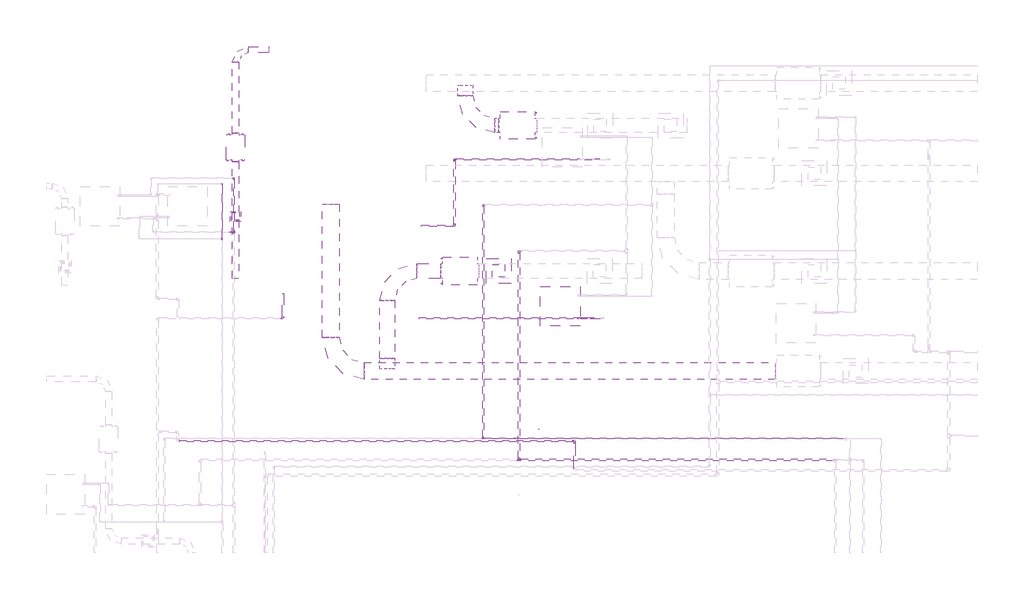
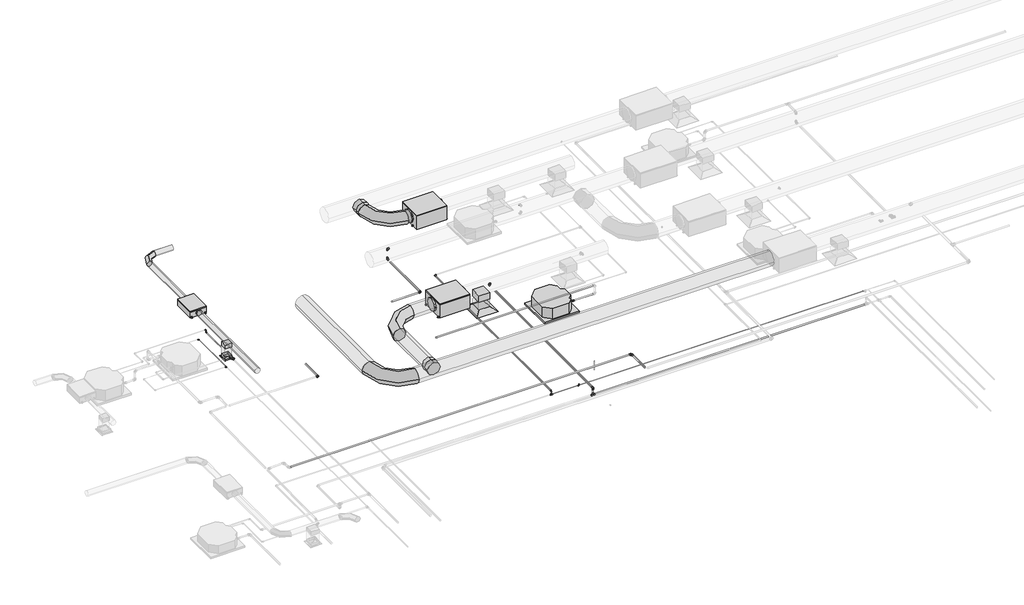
# One storey, part 14 of 21: 24 pipe fittings, 20 pipe segments, 11 duct segments, 9 duct fittings, 4 proxies, 2 air terminals.
"""IFC4 building model written with IfcOpenShell, lengths in millimetres."""

from ifc_helpers import new_model, si_unit, point, frame, frame_2d, origin, place, context, project, spatial, polyline, circle_curve, trimmed, segment, composite_curve, outline, extrude, transform, mapped, element, save
from components import air_terminal_ff221211, sdq3030_c899bc25, mechanical_equipment_53173f38, fh_fh_150_19aaf5c2, fh_fh_355_93b582f7, duct_fitting_7a0800c2, duct_fitting_550a0fe9, duct_fitting_d8e74723, duct_fitting_ed959077, duct_fitting_bc26a891, duct_fitting_2_d_33ab650d, duct_fitting_2_d_8456317d, duct_fitting_2_d_e46ba55a, pipe_fitting_e2d793b1, pipe_fitting_535881cf, pipe_fitting_144f4440, pipe_fitting_aa3f564d, pipe_fitting_a5ff4f7d, pipe_fitting_660e7500, pipe_fitting_65edd11d, pipe_fitting_b9714969, pipe_fitting_b8067b9a, pipe_fitting_8e7af1ed, pipe_fitting_1806753b, pipe_fitting_16c020f5, pipe_fitting_0e110a5f, pipe_fitting_a9265b51, pipe_fitting_09966660, pipe_fitting_648138cd, pipe_fitting_725bd888, pipe_fitting_d1254744

model = new_model("IFC4")

# Units and contexts
model_context = context("Model", 3, world=origin())
ifc_project = project(units=[si_unit("LENGTHUNIT", "METRE", prefix="MILLI")], contexts=[model_context])

# Site, building, storey
site = spatial("IfcSite", under=ifc_project)
building = spatial("IfcBuilding", under=site)
storey = spatial("IfcBuildingStorey", under=building, Name="Nível 1", Elevation=0.0)

# Air terminals
placement = place(None, origin())
air_terminal_shape = air_terminal_ff221211(model_context)
element("IfcAirTerminal", 1, ObjectType="M_Difusor de retorno : 600 x 600 Face 300 x 300 Conexão", at=placement, inside=storey, context=model_context, shape_type="MappedRepresentation", body=[
    mapped(air_terminal_shape, transform((-986.9060918, 4681.9327662, 3000.0), x_axis=(0.0, -1.0, 0.0), y_axis=(1.0, 0.0, 0.0), z_axis=(0.0, 0.0, 1.0))),
])
sdq3030_shape = sdq3030_c899bc25(model_context)
element("IfcAirTerminal", 2, ObjectType="11 - Difusor Quadrado : SDQ3030", at=placement, inside=storey, context=model_context, shape_type="MappedRepresentation", body=[
    mapped(sdq3030_shape, transform((-7285.4952284, 5984.9618694, 3000.0), x_axis=(-1.0, 0.0, 0.0), y_axis=(0.0, -1.0, 0.0), z_axis=(0.0, 0.0, 1.0))),
])

# Proxies
mechanical_equipment_shape = mechanical_equipment_53173f38(model_context)
element("IfcBuildingElementProxy", 3, Name="Midea_VRF_Indoor_4-way Cassette_MI-90(100,112,140)Q4_DHN1-D (2nd DC) : MI2-100Q4DHN1", ObjectType="Midea_VRF_Indoor_4-way Cassette_MI-90(100,112,140)Q4_DHN1-D (2nd DC) : MI2-100Q4DHN1", at=placement, inside=storey, context=model_context, shape_type="MappedRepresentation", body=[
    mapped(mechanical_equipment_shape, transform((487.5410392, 3832.7051078, 3000.0), x_axis=(1.0, 0.0, 0.0), y_axis=(0.0, 1.0, 0.0), z_axis=(0.0, 0.0, 1.0))),
])
fh_fh_150_shape = fh_fh_150_19aaf5c2(model_context)
element("IfcBuildingElementProxy", 4, Name="FH : FH 150", ObjectType="FH : FH 150", at=placement, inside=storey, context=model_context, shape_type="MappedRepresentation", body=[
    mapped(fh_fh_150_shape, transform((-7285.4952284, 7643.6930389, 3400.0), x_axis=(1.0, 0.0, 0.0), y_axis=(0.0, 1.0, 0.0), z_axis=(0.0, 0.0, 1.0))),
])
fh_fh_355_shape = fh_fh_355_93b582f7(model_context)
element("IfcBuildingElementProxy", 5, Name="FH : FH 355", ObjectType="FH : FH 355", at=placement, inside=storey, context=model_context, shape_type="MappedRepresentation", body=[
    mapped(fh_fh_355_shape, transform((-1912.9060918, 4681.9327662, 3400.0), x_axis=(0.0, -1.0, 0.0), y_axis=(1.0, 0.0, 0.0), z_axis=(0.0, 0.0, 1.0))),
])
element("IfcBuildingElementProxy", 6, Name="FH : FH 355", ObjectType="FH : FH 355", at=placement, inside=storey, context=model_context, shape_type="MappedRepresentation", body=[
    mapped(fh_fh_355_shape, transform((-532.9060918, 8168.767415, 3400.0), x_axis=(0.0, 1.0, 0.0), y_axis=(-1.0, 0.0, 0.0), z_axis=(0.0, 0.0, 1.0))),
])

# Duct fittings
duct_fitting_shape = duct_fitting_7a0800c2(model_context)
element("IfcDuctFitting", 7, ObjectType="M_Encaixe de duto redondo : Padrão", at=placement, inside=storey, context=model_context, shape_type="MappedRepresentation", body=[
    mapped(duct_fitting_shape, transform((-1786.9060918, 8984.06713, 3605.0), x_axis=(0.0, -1.0, 0.0), y_axis=(-1.0, 0.0, 0.0), z_axis=(0.0, 0.0, -1.0))),
])
duct_fitting_2_shape = duct_fitting_550a0fe9(model_context)
element("IfcDuctFitting", 8, ObjectType="M_Encaixe de duto retangular : Padrão", at=placement, inside=storey, context=model_context, shape_type="MappedRepresentation", body=[
    mapped(duct_fitting_2_shape, transform((-986.9060918, 4681.9327662, 3427.5), x_axis=(0.0, 0.0, -1.0), y_axis=(-1.0, 0.0, 0.0), z_axis=(0.0, 1.0, 0.0))),
])
duct_fitting_3_shape = duct_fitting_d8e74723(model_context)
element("IfcDuctFitting", 9, ObjectType="M_Encaixe de duto redondo : Padrão", at=placement, inside=storey, context=model_context, shape_type="MappedRepresentation", body=[
    mapped(duct_fitting_3_shape, transform((-3656.9060918, 2482.7850754, 3605.0), x_axis=(0.0, 1.0, 0.0), y_axis=(1.0, 0.0, 0.0), z_axis=(0.0, 0.0, -1.0))),
])
duct_fitting_4_shape = duct_fitting_ed959077(model_context)
element("IfcDuctFitting", 10, ObjectType="M_Transição redonda - Ângulo : 45 Graus", at=placement, inside=storey, context=model_context, shape_type="MappedRepresentation", body=[
    mapped(duct_fitting_4_shape, transform((-7285.4952284, 7301.6930389, 3493.0), x_axis=(0.0, -1.0, 0.0), y_axis=(1.0, 0.0, 0.0), z_axis=(0.0, 0.0, 1.0))),
])
duct_fitting_5_shape = duct_fitting_bc26a891(model_context)
element("IfcDuctFitting", 11, ObjectType="M_Encaixe de duto retangular : Padrão", at=placement, inside=storey, context=model_context, shape_type="MappedRepresentation", body=[
    mapped(duct_fitting_5_shape, transform((-7285.4952284, 5984.9618694, 3418.0), x_axis=(0.0, 0.0, -1.0), y_axis=(0.0, 1.0, 0.0), z_axis=(1.0, 0.0, 0.0))),
])
duct_fitting_2_d_shape = duct_fitting_2_d_33ab650d(model_context)
element("IfcDuctFitting", 12, ObjectType="M_Cotovelo redondo : 2 D", at=placement, inside=storey, context=model_context, shape_type="MappedRepresentation", body=[
    mapped(duct_fitting_2_d_shape, transform((-5003.9198123, 2283.4261027, 3621.0), x_axis=(0.0, -1.0, 0.0), y_axis=(1.0, 0.0, 0.0), z_axis=(0.0, 0.0, 1.0))),
])
duct_fitting_2_d_2_shape = duct_fitting_2_d_8456317d(model_context)
element("IfcDuctFitting", 13, ObjectType="M_Cotovelo redondo : 2 D", at=placement, inside=storey, context=model_context, shape_type="MappedRepresentation", body=[
    mapped(duct_fitting_2_d_2_shape, transform((-1786.9060918, 8168.767415, 3605.0), x_axis=(0.0, -1.0, 0.0), y_axis=(1.0, 0.0, 0.0), z_axis=(0.0, 0.0, 1.0))),
])
element("IfcDuctFitting", 14, ObjectType="M_Cotovelo redondo : 2 D", at=placement, inside=storey, context=model_context, shape_type="MappedRepresentation", body=[
    mapped(duct_fitting_2_d_2_shape, transform((-3656.9060918, 4681.9327662, 3605.0), x_axis=(-1.0, 0.0, 0.0), y_axis=(0.0, -1.0, 0.0), z_axis=(0.0, 0.0, 1.0))),
])
duct_fitting_2_d_3_shape = duct_fitting_2_d_e46ba55a(model_context)
element("IfcDuctFitting", 15, ObjectType="M_Cotovelo redondo : 2 D", at=placement, inside=storey, context=model_context, shape_type="MappedRepresentation", body=[
    mapped(duct_fitting_2_d_3_shape, transform((-7285.4952284, 9985.6930389, 3493.0), x_axis=(-1.0, 0.0, 0.0), y_axis=(0.0, -1.0, 0.0), z_axis=(0.0, 0.0, 1.0))),
])

# Duct segments
element("IfcDuctSegment", 16, ObjectType="Torneiras / Raio curto", at=placement, inside=storey, context=model_context, shape_type="SweptSolid", body=[
    extrude(outline(composite_curve([segment(trimmed(circle_curve(frame_2d((2283.4261027, 3621.0)), 200.0), [point((2483.4261027, 3621.0))], [point((2283.4261027, 3421.0))], False, "CARTESIAN"), True, "CONTINUOUS"), segment(trimmed(circle_curve(frame_2d((2283.4261027, 3621.0)), 200.0), [point((2283.4261027, 3421.0))], [point((2083.4261027, 3621.0))], False, "CARTESIAN"), True, "CONTINUOUS"), segment(trimmed(circle_curve(frame_2d((2283.4261027, 3621.0)), 200.0), [point((2083.4261027, 3621.0))], [point((2283.4261027, 3821.0))], False, "CARTESIAN"), True, "CONTINUOUS"), segment(trimmed(circle_curve(frame_2d((2283.4261027, 3621.0)), 200.0), [point((2283.4261027, 3821.0))], [point((2483.4261027, 3621.0))], False, "CARTESIAN"), True, "CONTINUOUS")], self_intersect=False)), frame((-4203.9198123, 0.0, 0.0), z_axis=(1.0, 0.0, 0.0), x_axis=(0.0, 1.0, 0.0)), (0.0, 0.0, 1.0), 9840.0),
])
element("IfcDuctSegment", 17, ObjectType="Torneiras / Raio curto", at=placement, inside=storey, context=model_context, shape_type="SweptSolid", body=[
    extrude(outline(composite_curve([segment(trimmed(circle_curve(frame_2d((4681.9327662, 3605.0)), 177.5), [point((4859.4327662, 3605.0))], [point((4681.9327662, 3427.5))], False, "CARTESIAN"), True, "CONTINUOUS"), segment(trimmed(circle_curve(frame_2d((4681.9327662, 3605.0)), 177.5), [point((4681.9327662, 3427.5))], [point((4504.4327662, 3605.0))], False, "CARTESIAN"), True, "CONTINUOUS"), segment(trimmed(circle_curve(frame_2d((4681.9327662, 3605.0)), 177.5), [point((4504.4327662, 3605.0))], [point((4681.9327662, 3782.5))], False, "CARTESIAN"), True, "CONTINUOUS"), segment(trimmed(circle_curve(frame_2d((4681.9327662, 3605.0)), 177.5), [point((4681.9327662, 3782.5))], [point((4859.4327662, 3605.0))], False, "CARTESIAN"), True, "CONTINUOUS")], self_intersect=False)), frame((-2946.9060918, 0.0, 0.0), z_axis=(1.0, 0.0, 0.0), x_axis=(0.0, 1.0, 0.0)), (0.0, 0.0, 1.0), 580.0),
])
element("IfcDuctSegment", 18, ObjectType="Torneiras / Raio curto", at=placement, inside=storey, context=model_context, shape_type="SweptSolid", body=[
    extrude(outline(composite_curve([segment(trimmed(circle_curve(frame_2d((8168.767415, 3605.0)), 177.5), [point((8346.267415, 3605.0))], [point((8168.767415, 3427.5))], False, "CARTESIAN"), True, "CONTINUOUS"), segment(trimmed(circle_curve(frame_2d((8168.767415, 3605.0)), 177.5), [point((8168.767415, 3427.5))], [point((7991.267415, 3605.0))], False, "CARTESIAN"), True, "CONTINUOUS"), segment(trimmed(circle_curve(frame_2d((8168.767415, 3605.0)), 177.5), [point((7991.267415, 3605.0))], [point((8168.767415, 3782.5))], False, "CARTESIAN"), True, "CONTINUOUS"), segment(trimmed(circle_curve(frame_2d((8168.767415, 3605.0)), 177.5), [point((8168.767415, 3782.5))], [point((8346.267415, 3605.0))], False, "CARTESIAN"), True, "CONTINUOUS")], self_intersect=False)), frame((-1076.9060918, 0.0, 0.0), z_axis=(1.0, 0.0, 0.0), x_axis=(0.0, 1.0, 0.0)), (0.0, 0.0, 1.0), 90.0),
])
element("IfcDuctSegment", 19, ObjectType="Torneiras / Raio curto", at=placement, inside=storey, context=model_context, shape_type="SweptSolid", body=[
    extrude(outline(composite_curve([segment(trimmed(circle_curve(frame_2d((0.0, -177.5)), 177.5), [point((0.0, 0.0))], [point((177.5, -177.5))], False, "CARTESIAN"), True, "CONTINUOUS"), segment(trimmed(circle_curve(frame_2d((0.0, -177.5)), 177.5), [point((177.5, -177.5))], [point((0.0, -355.0))], False, "CARTESIAN"), True, "CONTINUOUS"), segment(trimmed(circle_curve(frame_2d((0.0, -177.5)), 177.5), [point((0.0, -355.0))], [point((-177.5, -177.5))], False, "CARTESIAN"), True, "CONTINUOUS"), segment(trimmed(circle_curve(frame_2d((0.0, -177.5)), 177.5), [point((-177.5, -177.5))], [point((0.0, 0.0))], False, "CARTESIAN"), True, "CONTINUOUS")], self_intersect=False)), frame((-1964.4060918, 8878.767415, 3605.0), z_axis=(-1.9766138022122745e-12, 1.0, 0.0), x_axis=(0.0, 0.0, -1.0)), (0.0, 0.0, 1.0), 3.699715),
])
element("IfcDuctSegment", 20, ObjectType="Raios cotovelos / torneiras", at=placement, inside=storey, context=model_context, shape_type="SweptSolid", body=[
    extrude(outline(polyline([(-836.9060918, 4531.9327662), (-1136.9060918, 4531.9327662), (-1136.9060918, 4831.9327662), (-836.9060918, 4831.9327662), (-836.9060918, 4531.9327662)])), frame((0.0, 0.0, 3101.6), z_axis=(0.0, 0.0, 1.0), x_axis=(1.0, 0.0, 0.0)), (0.0, 0.0, 1.0), 224.3),
])
element("IfcDuctSegment", 21, ObjectType="Torneiras / Raio curto", at=placement, inside=storey, context=model_context, shape_type="SweptSolid", body=[
    extrude(outline(composite_curve([segment(trimmed(circle_curve(frame_2d((3605.0, -3656.9060918)), 177.5), [point((3605.0, -3479.4060918))], [point((3782.5, -3656.9060918))], False, "CARTESIAN"), True, "CONTINUOUS"), segment(trimmed(circle_curve(frame_2d((3605.0, -3656.9060918)), 177.5), [point((3782.5, -3656.9060918))], [point((3605.0, -3834.4060918))], False, "CARTESIAN"), True, "CONTINUOUS"), segment(trimmed(circle_curve(frame_2d((3605.0, -3656.9060918)), 177.5), [point((3605.0, -3834.4060918))], [point((3427.5, -3656.9060918))], False, "CARTESIAN"), True, "CONTINUOUS"), segment(trimmed(circle_curve(frame_2d((3605.0, -3656.9060918)), 177.5), [point((3427.5, -3656.9060918))], [point((3605.0, -3479.4060918))], False, "CARTESIAN"), True, "CONTINUOUS")], self_intersect=False)), frame((0.0, 2584.3850754, 0.0), z_axis=(0.0, 1.0, 0.0), x_axis=(0.0, 0.0, 1.0)), (0.0, 0.0, 1.0), 1387.5476908),
])
element("IfcDuctSegment", 22, ObjectType="Torneiras / Raio curto", at=placement, inside=storey, context=model_context, shape_type="SweptSolid", body=[
    extrude(outline(composite_curve([segment(trimmed(circle_curve(frame_2d((3493.0, -7285.4952284)), 75.0), [point((3493.0, -7360.4952284))], [point((3418.0, -7285.4952284))], False, "CARTESIAN"), True, "CONTINUOUS"), segment(trimmed(circle_curve(frame_2d((3493.0, -7285.4952284)), 75.0), [point((3418.0, -7285.4952284))], [point((3493.0, -7210.4952284))], False, "CARTESIAN"), True, "CONTINUOUS"), segment(trimmed(circle_curve(frame_2d((3493.0, -7285.4952284)), 75.0), [point((3493.0, -7210.4952284))], [point((3568.0, -7285.4952284))], False, "CARTESIAN"), True, "CONTINUOUS"), segment(trimmed(circle_curve(frame_2d((3493.0, -7285.4952284)), 75.0), [point((3568.0, -7285.4952284))], [point((3493.0, -7360.4952284))], False, "CARTESIAN"), True, "CONTINUOUS")], self_intersect=False)), frame((0.0, 4501.6930389, 0.0), z_axis=(0.0, 1.0, 0.0), x_axis=(0.0, 0.0, 1.0)), (0.0, 0.0, 1.0), 2798.7928932),
])
element("IfcDuctSegment", 23, ObjectType="Torneiras / Raio curto", at=placement, inside=storey, context=model_context, shape_type="SweptSolid", body=[
    extrude(outline(composite_curve([segment(trimmed(circle_curve(frame_2d((3493.0, -7285.4952284)), 74.5), [point((3493.0, -7210.9952284))], [point((3567.5, -7285.4952284))], False, "CARTESIAN"), True, "CONTINUOUS"), segment(trimmed(circle_curve(frame_2d((3493.0, -7285.4952284)), 74.5), [point((3567.5, -7285.4952284))], [point((3493.0, -7359.9952284))], False, "CARTESIAN"), True, "CONTINUOUS"), segment(trimmed(circle_curve(frame_2d((3493.0, -7285.4952284)), 74.5), [point((3493.0, -7359.9952284))], [point((3418.5, -7285.4952284))], False, "CARTESIAN"), True, "CONTINUOUS"), segment(trimmed(circle_curve(frame_2d((3493.0, -7285.4952284)), 74.5), [point((3418.5, -7285.4952284))], [point((3493.0, -7210.9952284))], False, "CARTESIAN"), True, "CONTINUOUS")], self_intersect=False)), frame((0.0, 7985.6930389, 0.0), z_axis=(0.0, 1.0, 0.0), x_axis=(0.0, 0.0, 1.0)), (0.0, 0.0, 1.0), 1702.0),
])
element("IfcDuctSegment", 24, ObjectType="Torneiras / Raio curto", at=placement, inside=storey, context=model_context, shape_type="SweptSolid", body=[
    extrude(outline(composite_curve([segment(trimmed(circle_curve(frame_2d((9985.6930389, 3493.0)), 74.5), [point((9911.1930389, 3493.0))], [point((9985.6930389, 3567.5))], False, "CARTESIAN"), True, "CONTINUOUS"), segment(trimmed(circle_curve(frame_2d((9985.6930389, 3493.0)), 74.5), [point((9985.6930389, 3567.5))], [point((10060.1930389, 3493.0))], False, "CARTESIAN"), True, "CONTINUOUS"), segment(trimmed(circle_curve(frame_2d((9985.6930389, 3493.0)), 74.5), [point((10060.1930389, 3493.0))], [point((9985.6930389, 3418.5))], False, "CARTESIAN"), True, "CONTINUOUS"), segment(trimmed(circle_curve(frame_2d((9985.6930389, 3493.0)), 74.5), [point((9985.6930389, 3418.5))], [point((9911.1930389, 3493.0))], False, "CARTESIAN"), True, "CONTINUOUS")], self_intersect=False)), frame((-6987.4952284, 0.0, 0.0), z_axis=(1.0, 0.0, 0.0), x_axis=(0.0, 1.0, 0.0)), (0.0, 0.0, 1.0), 502.0),
])
element("IfcDuctSegment", 25, ObjectType="Raios cotovelos / torneiras", at=placement, inside=storey, context=model_context, shape_type="SweptSolid", body=[
    extrude(outline(polyline([(-7375.4952284, 5894.9618694), (-7375.4952284, 6074.9618694), (-7195.4952284, 6074.9618694), (-7195.4952284, 5894.9618694), (-7375.4952284, 5894.9618694)])), frame((0.0, 0.0, 3005.0), z_axis=(0.0, 0.0, 1.0), x_axis=(1.0, 0.0, 0.0)), (0.0, 0.0, 1.0), 311.4),
])
element("IfcDuctSegment", 26, ObjectType="Torneiras / Raio curto", at=placement, inside=storey, context=model_context, shape_type="SweptSolid", body=[
    extrude(outline(composite_curve([segment(trimmed(circle_curve(frame_2d((3621.0, -5003.9198123)), 200.0), [point((3621.0, -4803.9198123))], [point((3821.0, -5003.9198123))], False, "CARTESIAN"), True, "CONTINUOUS"), segment(trimmed(circle_curve(frame_2d((3621.0, -5003.9198123)), 200.0), [point((3821.0, -5003.9198123))], [point((3621.0, -5203.9198123))], False, "CARTESIAN"), True, "CONTINUOUS"), segment(trimmed(circle_curve(frame_2d((3621.0, -5003.9198123)), 200.0), [point((3621.0, -5203.9198123))], [point((3421.0, -5003.9198123))], False, "CARTESIAN"), True, "CONTINUOUS"), segment(trimmed(circle_curve(frame_2d((3621.0, -5003.9198123)), 200.0), [point((3421.0, -5003.9198123))], [point((3621.0, -4803.9198123))], False, "CARTESIAN"), True, "CONTINUOUS")], self_intersect=False)), frame((0.0, 3083.4261027, 0.0), z_axis=(0.0, 1.0, 0.0), x_axis=(0.0, 0.0, 1.0)), (0.0, 0.0, 1.0), 3200.0),
])

# Pipe fittings
pipe_fitting_shape = pipe_fitting_e2d793b1(model_context)
element("IfcPipeFitting", 27, ObjectType="Bucha de redução reta - Soldada - CU : Padrão", at=placement, inside=storey, context=model_context, shape_type="MappedRepresentation", body=[
    mapped(pipe_fitting_shape, transform((912.5410392, 3547.7051078, 3252.3085101), x_axis=(1.0, 0.0, 0.0), y_axis=(0.0, 1.0, 0.0), z_axis=(0.0, 0.0, 1.0))),
])
pipe_fitting_2_shape = pipe_fitting_535881cf(model_context)
element("IfcPipeFitting", 28, ObjectType="Cotovelo - Soldado - CU : Padrão", at=placement, inside=storey, context=model_context, shape_type="MappedRepresentation", body=[
    mapped(pipe_fitting_2_shape, transform((-6153.185193, 3547.5971186, 3510.7989201), x_axis=(1.0, 0.0, 0.0), y_axis=(0.0, 1.0, 0.0), z_axis=(0.0, 0.0, 1.0))),
])
element("IfcPipeFitting", 29, ObjectType="Cotovelo - Soldado - CU : Padrão", at=placement, inside=storey, context=model_context, shape_type="MappedRepresentation", body=[
    mapped(pipe_fitting_2_shape, transform((-2039.0556072, 7358.6930389, 3500.0), x_axis=(-1.0, 0.0, 0.0), y_axis=(0.0, 0.0, -1.0), z_axis=(0.0, -1.0, 0.0))),
])
element("IfcPipeFitting", 30, ObjectType="Cotovelo - Soldado - CU : Padrão", at=placement, inside=storey, context=model_context, shape_type="MappedRepresentation", body=[
    mapped(pipe_fitting_2_shape, transform((-2039.0556072, 7358.6930389, 3200.0), x_axis=(0.0, 0.0, -1.0), y_axis=(0.0, -1.0, 0.0), z_axis=(-1.0, 0.0, 0.0))),
])
element("IfcPipeFitting", 31, ObjectType="Cotovelo - Soldado - CU : Padrão", at=placement, inside=storey, context=model_context, shape_type="MappedRepresentation", body=[
    mapped(pipe_fitting_2_shape, transform((-2039.0556072, 5758.6930389, 3200.0), x_axis=(1.0, 0.0, 0.0), y_axis=(0.0, 1.0, 0.0), z_axis=(0.0, 0.0, 1.0))),
])
pipe_fitting_3_shape = pipe_fitting_144f4440(model_context)
element("IfcPipeFitting", 32, ObjectType="Cotovelo - PVC - CW : Padrão", at=placement, inside=storey, context=model_context, shape_type="MappedRepresentation", body=[
    mapped(pipe_fitting_3_shape, transform((827.9167992, 606.0615245, 3500.4499775), x_axis=(0.0, 0.9999999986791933, 5.139663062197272e-05), y_axis=(-1.0000000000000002, 0.0, 0.0), z_axis=(0.0, -5.139663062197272e-05, 0.9999999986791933))),
])
pipe_fitting_4_shape = pipe_fitting_aa3f564d(model_context)
element("IfcPipeFitting", 33, ObjectType="Tê - Soldado - CU : Padrão", at=placement, inside=storey, context=model_context, shape_type="MappedRepresentation", body=[
    mapped(pipe_fitting_4_shape, transform((-498.3538078, 153.7608365, 3052.3), x_axis=(1.0, 0.0, 0.0), y_axis=(0.0, 0.0, -1.0), z_axis=(0.0, 1.0, 0.0))),
])
pipe_fitting_5_shape = pipe_fitting_a5ff4f7d(model_context)
element("IfcPipeFitting", 34, ObjectType="Bucha de redução reta - Soldada - CU : Padrão", at=placement, inside=storey, context=model_context, shape_type="MappedRepresentation", body=[
    mapped(pipe_fitting_5_shape, transform((-7287.9875404, 5614.7666194, 3182.3085101), x_axis=(-1.0, 0.0, 0.0), y_axis=(0.0, -1.0, 0.0), z_axis=(0.0, 0.0, 1.0))),
])
element("IfcPipeFitting", 35, ObjectType="Bucha de redução reta - Soldada - CU : Padrão", at=placement, inside=storey, context=model_context, shape_type="MappedRepresentation", body=[
    mapped(pipe_fitting_5_shape, transform((-7325.4324434, 5647.5137194, 3182.3085101), x_axis=(0.0, 1.0, 0.0), y_axis=(-1.0, 0.0, 0.0), z_axis=(0.0, 0.0, 1.0))),
])
pipe_fitting_6_shape = pipe_fitting_660e7500(model_context)
element("IfcPipeFitting", 36, ObjectType="Tê - Soldado - CU : Padrão", at=placement, inside=storey, context=model_context, shape_type="MappedRepresentation", body=[
    mapped(pipe_fitting_6_shape, transform((-7325.4324434, 5614.7666194, 3182.3085101), x_axis=(0.0, -1.0, 0.0), y_axis=(1.0, 0.0, 0.0), z_axis=(0.0, 0.0, 1.0))),
])
pipe_fitting_7_shape = pipe_fitting_65edd11d(model_context)
element("IfcPipeFitting", 37, ObjectType="Cotovelo - Soldado - CU : Padrão", at=placement, inside=storey, context=model_context, shape_type="MappedRepresentation", body=[
    mapped(pipe_fitting_7_shape, transform((-498.3538078, 5160.3854214, 3252.3074999), x_axis=(-0.9999999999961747, 0.0, 2.765975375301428e-06), y_axis=(-4.159251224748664e-12, -0.9999999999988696, -1.5037195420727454e-06), z_axis=(2.765975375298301e-06, -1.5037195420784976e-06, 0.9999999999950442))),
])
pipe_fitting_8_shape = pipe_fitting_b9714969(model_context)
element("IfcPipeFitting", 38, ObjectType="Cotovelo - Soldado - CU : Padrão", at=placement, inside=storey, context=model_context, shape_type="MappedRepresentation", body=[
    mapped(pipe_fitting_8_shape, transform((-1357.5274452, 666.0796084, 3146.7974131), x_axis=(0.0, 0.0, 1.0), y_axis=(0.0, 1.0, 0.0), z_axis=(-1.0, 0.0, 0.0))),
])
pipe_fitting_9_shape = pipe_fitting_b8067b9a(model_context)
element("IfcPipeFitting", 39, ObjectType="Cotovelo - Soldado - CU : Padrão", at=placement, inside=storey, context=model_context, shape_type="MappedRepresentation", body=[
    mapped(pipe_fitting_9_shape, transform((-498.3538078, 153.7608365, 3252.2999714), x_axis=(0.0, 0.0, 1.0), y_axis=(0.0, 1.0, 0.0), z_axis=(-1.0, 0.0, 0.0))),
])
pipe_fitting_10_shape = pipe_fitting_8e7af1ed(model_context)
element("IfcPipeFitting", 40, ObjectType="Bucha de redução reta - Soldada - CU : Padrão", at=placement, inside=storey, context=model_context, shape_type="MappedRepresentation", body=[
    mapped(pipe_fitting_10_shape, transform((-1357.5274452, 690.1052084, 3146.7976194), x_axis=(0.0, 0.9999999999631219, 8.588139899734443e-06), y_axis=(-1.0, 0.0, 0.0), z_axis=(0.0, -8.588139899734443e-06, 0.9999999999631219))),
])
pipe_fitting_11_shape = pipe_fitting_1806753b(model_context)
element("IfcPipeFitting", 41, ObjectType="Cotovelo - Soldado - CU : Padrão", at=placement, inside=storey, context=model_context, shape_type="MappedRepresentation", body=[
    mapped(pipe_fitting_11_shape, transform((-1357.5274452, 6266.0796082, 3146.8455067), x_axis=(-0.9999999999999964, 0.0, 8.499097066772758e-08), y_axis=(0.0, -0.999999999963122, -8.588139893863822e-06), z_axis=(8.499097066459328e-08, -8.588139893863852e-06, 0.9999999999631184))),
])
pipe_fitting_12_shape = pipe_fitting_16c020f5(model_context)
element("IfcPipeFitting", 42, ObjectType="Cotovelo - Soldado - CU : Padrão", at=placement, inside=storey, context=model_context, shape_type="MappedRepresentation", body=[
    mapped(pipe_fitting_12_shape, transform((-7325.4324434, 6904.7237806, 3182.3085101), x_axis=(0.0, 1.0, 0.0), y_axis=(0.0, 0.0, 1.0), z_axis=(1.0, 0.0, 0.0))),
])
element("IfcPipeFitting", 43, ObjectType="Cotovelo - Soldado - CU : Padrão", at=placement, inside=storey, context=model_context, shape_type="MappedRepresentation", body=[
    mapped(pipe_fitting_12_shape, transform((-7325.4324434, 6904.7237806, 3252.3), x_axis=(0.0, 0.0, 1.0), y_axis=(-1.0, 0.0, 0.0), z_axis=(0.0, -1.0, 0.0))),
])
pipe_fitting_13_shape = pipe_fitting_0e110a5f(model_context)
element("IfcPipeFitting", 44, ObjectType="Cotovelo - Soldado - CU : Padrão", at=placement, inside=storey, context=model_context, shape_type="MappedRepresentation", body=[
    mapped(pipe_fitting_13_shape, transform((-593.7078452, 666.0796084, 3046.8), x_axis=(0.0, 0.0, -1.0), y_axis=(-1.0, 0.0, 0.0), z_axis=(0.0, 1.0, 0.0))),
])
pipe_fitting_14_shape = pipe_fitting_a9265b51(model_context)
element("IfcPipeFitting", 45, ObjectType="Cotovelo - Soldado - CU : Padrão", at=placement, inside=storey, context=model_context, shape_type="MappedRepresentation", body=[
    mapped(pipe_fitting_14_shape, transform((-7329.6250404, 5614.7666194, 3182.3085101), x_axis=(-1.0, 0.0, 0.0), y_axis=(0.0, 0.0, 1.0), z_axis=(0.0, 1.0, 0.0))),
])
element("IfcPipeFitting", 46, ObjectType="Cotovelo - Soldado - CU : Padrão", at=placement, inside=storey, context=model_context, shape_type="MappedRepresentation", body=[
    mapped(pipe_fitting_14_shape, transform((-7399.6165303, 5614.7666194, 3252.3), x_axis=(-0.7071067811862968, 0.0, 0.7071067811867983), y_axis=(-0.7071067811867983, 0.0, -0.7071067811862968), z_axis=(0.0, -1.0, 0.0))),
])
pipe_fitting_15_shape = pipe_fitting_09966660(model_context)
element("IfcPipeFitting", 47, ObjectType="Tê - Soldado - CU : Padrão", at=placement, inside=storey, context=model_context, shape_type="MappedRepresentation", body=[
    mapped(pipe_fitting_15_shape, transform((-1357.5274452, 666.0796084, 3046.8), x_axis=(1.0, 0.0, 0.0), y_axis=(0.0, 0.0, -1.0), z_axis=(0.0, 1.0, 0.0))),
])
pipe_fitting_16_shape = pipe_fitting_648138cd(model_context)
element("IfcPipeFitting", 48, ObjectType="Cotovelo - Soldado - CU : Padrão", at=placement, inside=storey, context=model_context, shape_type="MappedRepresentation", body=[
    mapped(pipe_fitting_16_shape, transform((-7605.4324434, 6770.9213388, 3146.8), x_axis=(0.0, 0.9999999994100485, -3.434971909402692e-05), y_axis=(-1.0000000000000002, 0.0, 0.0), z_axis=(0.0, 3.434971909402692e-05, 0.9999999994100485))),
])
pipe_fitting_17_shape = pipe_fitting_725bd888(model_context)
element("IfcPipeFitting", 49, ObjectType="Tê - Soldado - CU : Padrão", at=placement, inside=storey, context=model_context, shape_type="MappedRepresentation", body=[
    mapped(pipe_fitting_17_shape, transform((-7605.4324434, 5448.5690612, 3146.8446487), x_axis=(0.0, -1.0, 0.0), y_axis=(0.9999999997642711, 0.0, 2.1713079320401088e-05), z_axis=(-2.1713079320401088e-05, 0.0, 0.9999999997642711))),
])
pipe_fitting_18_shape = pipe_fitting_d1254744(model_context)
element("IfcPipeFitting", 50, ObjectType="Bucha de redução reta - Soldada - CU : Padrão", at=placement, inside=storey, context=model_context, shape_type="MappedRepresentation", body=[
    mapped(pipe_fitting_18_shape, transform((-1357.5274452, 666.0796084, 3076.9605), x_axis=(0.0, 0.0, 1.0), y_axis=(-1.0, 0.0, 0.0), z_axis=(0.0, -1.0, 0.0))),
])

# Pipe segments
element("IfcPipeSegment", 51, ObjectType="Tubos de cobre HVAC", at=placement, inside=storey, context=model_context, shape_type="SweptSolid", body=[
    extrude(outline(composite_curve([segment(trimmed(circle_curve(frame_2d((-32.1718372, 892.1759778)), 6.35), [point((-25.8218372, 892.1759778))], [point((-32.1718372, 885.8259778))], False, "CARTESIAN"), True, "CONTINUOUS"), segment(trimmed(circle_curve(frame_2d((-32.1718372, 892.1759778)), 6.35), [point((-32.1718372, 885.8259778))], [point((-38.5218372, 892.1759778))], False, "CARTESIAN"), True, "CONTINUOUS"), segment(trimmed(circle_curve(frame_2d((-32.1718372, 892.1759778)), 6.35), [point((-38.5218372, 892.1759778))], [point((-32.1718372, 898.5259778))], False, "CARTESIAN"), True, "CONTINUOUS"), segment(trimmed(circle_curve(frame_2d((-32.1718372, 892.1759778)), 6.35), [point((-32.1718372, 898.5259778))], [point((-25.8218372, 892.1759778))], False, "CARTESIAN"), True, "CONTINUOUS")], self_intersect=False)), frame((0.0, 0.0, 3173.306), z_axis=(0.0, 0.0, 1.0), x_axis=(1.0, 0.0, 0.0)), (0.0, 0.0, 1.0), 246.988),
])
element("IfcPipeSegment", 52, ObjectType="Tubos de cobre HVAC", at=placement, inside=storey, context=model_context, shape_type="SweptSolid", body=[
    extrude(outline(composite_curve([segment(trimmed(circle_curve(frame_2d((3510.7989201, -6153.185193)), 17.5), [point((3510.7989201, -6170.685193))], [point((3493.2989201, -6153.185193))], False, "CARTESIAN"), True, "CONTINUOUS"), segment(trimmed(circle_curve(frame_2d((3510.7989201, -6153.185193)), 17.5), [point((3493.2989201, -6153.185193))], [point((3510.7989201, -6135.685193))], False, "CARTESIAN"), True, "CONTINUOUS"), segment(trimmed(circle_curve(frame_2d((3510.7989201, -6153.185193)), 17.5), [point((3510.7989201, -6135.685193))], [point((3528.2989201, -6153.185193))], False, "CARTESIAN"), True, "CONTINUOUS"), segment(trimmed(circle_curve(frame_2d((3510.7989201, -6153.185193)), 17.5), [point((3528.2989201, -6153.185193))], [point((3510.7989201, -6170.685193))], False, "CARTESIAN"), True, "CONTINUOUS")], self_intersect=False)), frame((0.0, 3589.1971186, 0.0), z_axis=(0.0, 1.0, 0.0), x_axis=(0.0, 0.0, 1.0)), (0.0, 0.0, 1.0), 555.4599892),
])
element("IfcPipeSegment", 53, ObjectType="Plástico", at=placement, inside=storey, context=model_context, shape_type="SweptSolid", body=[
    extrude(outline(composite_curve([segment(trimmed(circle_curve(frame_2d((0.0, 20.0)), 20.0), [point((0.0, 40.0))], [point((19.9999999, 20.0))], False, "CARTESIAN"), True, "CONTINUOUS"), segment(trimmed(circle_curve(frame_2d((0.0, 20.0)), 20.0), [point((19.9999999, 20.0))], [point((0.0, 0.0))], False, "CARTESIAN"), True, "CONTINUOUS"), segment(trimmed(circle_curve(frame_2d((0.0, 20.0)), 20.0), [point((0.0, 0.0))], [point((-20.0, 20.0))], False, "CARTESIAN"), True, "CONTINUOUS"), segment(trimmed(circle_curve(frame_2d((0.0, 20.0)), 20.0), [point((-20.0, 20.0))], [point((0.0, 40.0))], False, "CARTESIAN"), True, "CONTINUOUS")], self_intersect=False)), frame((807.9167992, -55.3599867, 3500.4344855), z_axis=(0.0, 0.999999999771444, 2.138017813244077e-05), x_axis=(0.0, -2.138017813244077e-05, 0.999999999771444)), (0.0, 0.0, 1.0), 616.4215115),
])
element("IfcPipeSegment", 54, ObjectType="Plástico", at=placement, inside=storey, context=model_context, shape_type="SweptSolid", body=[
    extrude(outline(composite_curve([segment(trimmed(circle_curve(frame_2d((606.0615245, 3500.4499775)), 20.0), [point((626.0615245, 3500.4499775))], [point((606.0615245, 3480.4499775))], False, "CARTESIAN"), True, "CONTINUOUS"), segment(trimmed(circle_curve(frame_2d((606.0615245, 3500.4499775)), 20.0), [point((606.0615245, 3480.4499775))], [point((586.0615245, 3500.4499775))], False, "CARTESIAN"), True, "CONTINUOUS"), segment(trimmed(circle_curve(frame_2d((606.0615245, 3500.4499775)), 20.0), [point((586.0615245, 3500.4499775))], [point((606.0615245, 3520.4499775))], False, "CARTESIAN"), True, "CONTINUOUS"), segment(trimmed(circle_curve(frame_2d((606.0615245, 3500.4499775)), 20.0), [point((606.0615245, 3520.4499775))], [point((626.0615245, 3500.4499775))], False, "CARTESIAN"), True, "CONTINUOUS")], self_intersect=False)), frame((-8627.0832008, 0.0, 0.0), z_axis=(1.0, 0.0, 0.0), x_axis=(0.0, 1.0, 0.0)), (0.0, 0.0, 1.0), 9410.0),
])
element("IfcPipeSegment", 55, ObjectType="Tubos de cobre HVAC", at=placement, inside=storey, context=model_context, shape_type="SweptSolid", body=[
    extrude(outline(composite_curve([segment(trimmed(circle_curve(frame_2d((0.0, -17.5)), 17.5), [point((-17.5, -17.5))], [point((0.0, 0.0))], False, "CARTESIAN"), True, "CONTINUOUS"), segment(trimmed(circle_curve(frame_2d((0.0, -17.5)), 17.5), [point((0.0, 0.0))], [point((17.5, -17.5))], False, "CARTESIAN"), True, "CONTINUOUS"), segment(trimmed(circle_curve(frame_2d((0.0, -17.5)), 17.5), [point((17.5, -17.5))], [point((0.0, -35.0))], False, "CARTESIAN"), True, "CONTINUOUS"), segment(trimmed(circle_curve(frame_2d((0.0, -17.5)), 17.5), [point((0.0, -35.0))], [point((-17.5, -17.5))], False, "CARTESIAN"), True, "CONTINUOUS")], self_intersect=False)), frame((1470.9407823, 3547.7051078, 3234.8006106), z_axis=(-0.9999999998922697, 0.0, 1.4678579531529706e-05), x_axis=(0.0, 1.0, 0.0)), (0.0, 0.0, 1.0), 538.16),
])
element("IfcPipeSegment", 56, ObjectType="Tubos de cobre HVAC", at=placement, inside=storey, context=model_context, shape_type="SweptSolid", body=[
    extrude(outline(composite_curve([segment(trimmed(circle_curve(frame_2d((3547.7051078, 3500.0)), 17.5), [point((3565.2051078, 3500.0))], [point((3547.7051078, 3482.5))], False, "CARTESIAN"), True, "CONTINUOUS"), segment(trimmed(circle_curve(frame_2d((3547.7051078, 3500.0)), 17.5), [point((3547.7051078, 3482.5))], [point((3530.2051078, 3500.0))], False, "CARTESIAN"), True, "CONTINUOUS"), segment(trimmed(circle_curve(frame_2d((3547.7051078, 3500.0)), 17.5), [point((3530.2051078, 3500.0))], [point((3547.7051078, 3517.5))], False, "CARTESIAN"), True, "CONTINUOUS"), segment(trimmed(circle_curve(frame_2d((3547.7051078, 3500.0)), 17.5), [point((3547.7051078, 3517.5))], [point((3565.2051078, 3500.0))], False, "CARTESIAN"), True, "CONTINUOUS")], self_intersect=False)), frame((-2887.4589608, 0.0, 0.0), z_axis=(1.0, 0.0, 0.0), x_axis=(0.0, 1.0, 0.0)), (0.0, 0.0, 1.0), 4358.4),
])
element("IfcPipeSegment", 57, ObjectType="Tubos de cobre HVAC", at=placement, inside=storey, context=model_context, shape_type="SweptSolid", body=[
    extrude(outline(composite_curve([segment(trimmed(circle_curve(frame_2d((7358.6930389, 3500.0)), 17.5), [point((7376.1930389, 3500.0))], [point((7358.6930389, 3482.5))], False, "CARTESIAN"), True, "CONTINUOUS"), segment(trimmed(circle_curve(frame_2d((7358.6930389, 3500.0)), 17.5), [point((7358.6930389, 3482.5))], [point((7341.1930389, 3500.0))], False, "CARTESIAN"), True, "CONTINUOUS"), segment(trimmed(circle_curve(frame_2d((7358.6930389, 3500.0)), 17.5), [point((7341.1930389, 3500.0))], [point((7358.6930389, 3517.5))], False, "CARTESIAN"), True, "CONTINUOUS"), segment(trimmed(circle_curve(frame_2d((7358.6930389, 3500.0)), 17.5), [point((7358.6930389, 3517.5))], [point((7376.1930389, 3500.0))], False, "CARTESIAN"), True, "CONTINUOUS")], self_intersect=False)), frame((-1997.4556072, 0.0, 0.0), z_axis=(1.0, 0.0, 0.0), x_axis=(0.0, 1.0, 0.0)), (0.0, 0.0, 1.0), 3616.8),
])
element("IfcPipeSegment", 58, ObjectType="Tubos de cobre HVAC", at=placement, inside=storey, context=model_context, shape_type="SweptSolid", body=[
    extrude(outline(composite_curve([segment(trimmed(circle_curve(frame_2d((-2039.0556072, 7358.6930389)), 17.5), [point((-2056.5556072, 7358.6930389))], [point((-2039.0556072, 7376.1930389))], False, "CARTESIAN"), True, "CONTINUOUS"), segment(trimmed(circle_curve(frame_2d((-2039.0556072, 7358.6930389)), 17.5), [point((-2039.0556072, 7376.1930389))], [point((-2021.5556072, 7358.6930389))], False, "CARTESIAN"), True, "CONTINUOUS"), segment(trimmed(circle_curve(frame_2d((-2039.0556072, 7358.6930389)), 17.5), [point((-2021.5556072, 7358.6930389))], [point((-2039.0556072, 7341.1930389))], False, "CARTESIAN"), True, "CONTINUOUS"), segment(trimmed(circle_curve(frame_2d((-2039.0556072, 7358.6930389)), 17.5), [point((-2039.0556072, 7341.1930389))], [point((-2056.5556072, 7358.6930389))], False, "CARTESIAN"), True, "CONTINUOUS")], self_intersect=False)), frame((0.0, 0.0, 3241.6), z_axis=(0.0, 0.0, 1.0), x_axis=(1.0, 0.0, 0.0)), (0.0, 0.0, 1.0), 216.8),
])
element("IfcPipeSegment", 59, ObjectType="Tubos de cobre HVAC", at=placement, inside=storey, context=model_context, shape_type="SweptSolid", body=[
    extrude(outline(composite_curve([segment(trimmed(circle_curve(frame_2d((3200.0, -2039.0556072)), 17.5), [point((3200.0, -2056.5556072))], [point((3182.5, -2039.0556072))], False, "CARTESIAN"), True, "CONTINUOUS"), segment(trimmed(circle_curve(frame_2d((3200.0, -2039.0556072)), 17.5), [point((3182.5, -2039.0556072))], [point((3200.0, -2021.5556072))], False, "CARTESIAN"), True, "CONTINUOUS"), segment(trimmed(circle_curve(frame_2d((3200.0, -2039.0556072)), 17.5), [point((3200.0, -2021.5556072))], [point((3217.5, -2039.0556072))], False, "CARTESIAN"), True, "CONTINUOUS"), segment(trimmed(circle_curve(frame_2d((3200.0, -2039.0556072)), 17.5), [point((3217.5, -2039.0556072))], [point((3200.0, -2056.5556072))], False, "CARTESIAN"), True, "CONTINUOUS")], self_intersect=False)), frame((0.0, 5800.2930389, 0.0), z_axis=(0.0, 1.0, 0.0), x_axis=(0.0, 0.0, 1.0)), (0.0, 0.0, 1.0), 1516.8),
])
element("IfcPipeSegment", 60, ObjectType="Tubos de cobre HVAC", at=placement, inside=storey, context=model_context, shape_type="SweptSolid", body=[
    extrude(outline(composite_curve([segment(trimmed(circle_curve(frame_2d((5758.6930389, 3200.0)), 17.5), [point((5776.1930389, 3200.0))], [point((5758.6930389, 3182.5))], False, "CARTESIAN"), True, "CONTINUOUS"), segment(trimmed(circle_curve(frame_2d((5758.6930389, 3200.0)), 17.5), [point((5758.6930389, 3182.5))], [point((5741.1930389, 3200.0))], False, "CARTESIAN"), True, "CONTINUOUS"), segment(trimmed(circle_curve(frame_2d((5758.6930389, 3200.0)), 17.5), [point((5741.1930389, 3200.0))], [point((5758.6930389, 3217.5))], False, "CARTESIAN"), True, "CONTINUOUS"), segment(trimmed(circle_curve(frame_2d((5758.6930389, 3200.0)), 17.5), [point((5758.6930389, 3217.5))], [point((5776.1930389, 3200.0))], False, "CARTESIAN"), True, "CONTINUOUS")], self_intersect=False)), frame((-2839.0556072, 0.0, 0.0), z_axis=(1.0, 0.0, 0.0), x_axis=(0.0, 1.0, 0.0)), (0.0, 0.0, 1.0), 758.4),
])
element("IfcPipeSegment", 61, ObjectType="Tubos de cobre HVAC", at=placement, inside=storey, context=model_context, shape_type="SweptSolid", body=[
    extrude(outline(composite_curve([segment(trimmed(circle_curve(frame_2d((3182.3085101, -7325.4324434)), 7.935), [point((3182.3085101, -7317.4974434))], [point((3190.2435101, -7325.4324434))], False, "CARTESIAN"), True, "CONTINUOUS"), segment(trimmed(circle_curve(frame_2d((3182.3085101, -7325.4324434)), 7.935), [point((3190.2435101, -7325.4324434))], [point((3182.3085101, -7333.3674434))], False, "CARTESIAN"), True, "CONTINUOUS"), segment(trimmed(circle_curve(frame_2d((3182.3085101, -7325.4324434)), 7.935), [point((3182.3085101, -7333.3674434))], [point((3174.3735101, -7325.4324434))], False, "CARTESIAN"), True, "CONTINUOUS"), segment(trimmed(circle_curve(frame_2d((3182.3085101, -7325.4324434)), 7.935), [point((3174.3735101, -7325.4324434))], [point((3182.3085101, -7317.4974434))], False, "CARTESIAN"), True, "CONTINUOUS")], self_intersect=False)), frame((0.0, 5660.1726194, 0.0), z_axis=(0.0, 1.0, 0.0), x_axis=(0.0, 0.0, 1.0)), (0.0, 0.0, 1.0), 1215.5725612),
])
element("IfcPipeSegment", 62, ObjectType="Tubos de cobre HVAC", at=placement, inside=storey, context=model_context, shape_type="SweptSolid", body=[
    extrude(outline(composite_curve([segment(trimmed(circle_curve(frame_2d((0.0, 7.935)), 7.935), [point((0.0, 15.87))], [point((7.935, 7.935))], False, "CARTESIAN"), True, "CONTINUOUS"), segment(trimmed(circle_curve(frame_2d((0.0, 7.935)), 7.935), [point((7.935, 7.935))], [point((0.0, 0.0))], False, "CARTESIAN"), True, "CONTINUOUS"), segment(trimmed(circle_curve(frame_2d((0.0, 7.935)), 7.935), [point((0.0, 0.0))], [point((-7.935, 7.935))], False, "CARTESIAN"), True, "CONTINUOUS"), segment(trimmed(circle_curve(frame_2d((0.0, 7.935)), 7.935), [point((-7.935, 7.935))], [point((0.0, 15.87))], False, "CARTESIAN"), True, "CONTINUOUS")], self_intersect=False)), frame((-7350.116005, 5606.8316194, 3202.7994746), z_axis=(-0.7071067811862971, 0.0, 0.707106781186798), x_axis=(0.707106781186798, 0.0, 0.7071067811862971)), (0.0, 0.0, 1.0), 41.0257143),
])
element("IfcPipeSegment", 63, ObjectType="Tubos de cobre HVAC", at=placement, inside=storey, context=model_context, shape_type="SweptSolid", body=[
    extrude(outline(composite_curve([segment(trimmed(circle_curve(frame_2d((-7325.4324434, 6904.7237806)), 7.935), [point((-7333.3674434, 6904.7237806))], [point((-7325.4324434, 6912.6587806))], False, "CARTESIAN"), True, "CONTINUOUS"), segment(trimmed(circle_curve(frame_2d((-7325.4324434, 6904.7237806)), 7.935), [point((-7325.4324434, 6912.6587806))], [point((-7317.4974434, 6904.7237806))], False, "CARTESIAN"), True, "CONTINUOUS"), segment(trimmed(circle_curve(frame_2d((-7325.4324434, 6904.7237806)), 7.935), [point((-7317.4974434, 6904.7237806))], [point((-7325.4324434, 6896.7887806))], False, "CARTESIAN"), True, "CONTINUOUS"), segment(trimmed(circle_curve(frame_2d((-7325.4324434, 6904.7237806)), 7.935), [point((-7325.4324434, 6896.7887806))], [point((-7333.3674434, 6904.7237806))], False, "CARTESIAN"), True, "CONTINUOUS")], self_intersect=False)), frame((0.0, 0.0, 3211.2871101), z_axis=(0.0, 0.0, 1.0), x_axis=(1.0, 0.0, 0.0)), (0.0, 0.0, 1.0), 12.0342899),
])
element("IfcPipeSegment", 64, ObjectType="Tubos de cobre HVAC", at=placement, inside=storey, context=model_context, shape_type="SweptSolid", body=[
    extrude(outline(composite_curve([segment(trimmed(circle_curve(frame_2d((0.0, -4.76)), 4.76), [point((0.0, -9.52))], [point((-4.76, -4.76))], False, "CARTESIAN"), True, "CONTINUOUS"), segment(trimmed(circle_curve(frame_2d((0.0, -4.76)), 4.76), [point((-4.76, -4.76))], [point((0.0, 0.0))], False, "CARTESIAN"), True, "CONTINUOUS"), segment(trimmed(circle_curve(frame_2d((0.0, -4.76)), 4.76), [point((0.0, 0.0))], [point((4.76, -4.76))], False, "CARTESIAN"), True, "CONTINUOUS"), segment(trimmed(circle_curve(frame_2d((0.0, -4.76)), 4.76), [point((4.76, -4.76))], [point((0.0, -9.52))], False, "CARTESIAN"), True, "CONTINUOUS")], self_intersect=False)), frame((-7610.1924434, 6746.8957388, 3146.8008253), z_axis=(0.0, -0.9999999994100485, 3.434971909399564e-05), x_axis=(0.0, 3.434971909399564e-05, 0.9999999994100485)), (0.0, 0.0, 1.0), 1275.8030783),
])
element("IfcPipeSegment", 65, ObjectType="Tubos de cobre HVAC", at=placement, inside=storey, context=model_context, shape_type="SweptSolid", body=[
    extrude(outline(composite_curve([segment(trimmed(circle_curve(frame_2d((0.0, 12.7)), 12.7), [point((0.0, 25.4))], [point((12.7, 12.7))], False, "CARTESIAN"), True, "CONTINUOUS"), segment(trimmed(circle_curve(frame_2d((0.0, 12.7)), 12.7), [point((12.7, 12.7))], [point((0.0, 0.0))], False, "CARTESIAN"), True, "CONTINUOUS"), segment(trimmed(circle_curve(frame_2d((0.0, 12.7)), 12.7), [point((0.0, 0.0))], [point((-12.7, 12.7))], False, "CARTESIAN"), True, "CONTINUOUS"), segment(trimmed(circle_curve(frame_2d((0.0, 12.7)), 12.7), [point((-12.7, 12.7))], [point((0.0, 25.4))], False, "CARTESIAN"), True, "CONTINUOUS")], self_intersect=False)), frame((-1370.2274452, 699.7796084, 3146.7977025), z_axis=(0.0, 0.9999999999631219, 8.588139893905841e-06), x_axis=(0.0, -8.588139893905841e-06, 0.9999999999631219)), (0.0, 0.0, 1.0), 5529.888),
])
element("IfcPipeSegment", 66, ObjectType="Tubos de cobre HVAC", at=placement, inside=storey, context=model_context, shape_type="SweptSolid", body=[
    extrude(outline(composite_curve([segment(trimmed(circle_curve(frame_2d((-1357.5274452, 666.0796084)), 4.76), [point((-1362.2874452, 666.0796084))], [point((-1357.5274452, 670.8396084))], False, "CARTESIAN"), True, "CONTINUOUS"), segment(trimmed(circle_curve(frame_2d((-1357.5274452, 666.0796084)), 4.76), [point((-1357.5274452, 670.8396084))], [point((-1352.7674452, 666.0796084))], False, "CARTESIAN"), True, "CONTINUOUS"), segment(trimmed(circle_curve(frame_2d((-1357.5274452, 666.0796084)), 4.76), [point((-1352.7674452, 666.0796084))], [point((-1357.5274452, 661.3196084))], False, "CARTESIAN"), True, "CONTINUOUS"), segment(trimmed(circle_curve(frame_2d((-1357.5274452, 666.0796084)), 4.76), [point((-1357.5274452, 661.3196084))], [point((-1362.2874452, 666.0796084))], False, "CARTESIAN"), True, "CONTINUOUS")], self_intersect=False)), frame((0.0, 0.0, 3086.6349), z_axis=(0.0, 0.0, 1.0), x_axis=(1.0, 0.0, 0.0)), (0.0, 0.0, 1.0), 36.1369122),
])
element("IfcPipeSegment", 67, ObjectType="Tubos de cobre HVAC", at=placement, inside=storey, context=model_context, shape_type="SweptSolid", body=[
    extrude(outline(composite_curve([segment(trimmed(circle_curve(frame_2d((0.0, -19.05)), 19.05), [point((0.0, 0.0))], [point((19.05, -19.05))], False, "CARTESIAN"), True, "CONTINUOUS"), segment(trimmed(circle_curve(frame_2d((0.0, -19.05)), 19.05), [point((19.05, -19.05))], [point((0.0, -38.1))], False, "CARTESIAN"), True, "CONTINUOUS"), segment(trimmed(circle_curve(frame_2d((0.0, -19.05)), 19.05), [point((0.0, -38.1))], [point((-19.05, -19.05))], False, "CARTESIAN"), True, "CONTINUOUS"), segment(trimmed(circle_curve(frame_2d((0.0, -19.05)), 19.05), [point((-19.05, -19.05))], [point((0.0, 0.0))], False, "CARTESIAN"), True, "CONTINUOUS")], self_intersect=False)), frame((-517.4038078, 200.0788365, 3252.300041), z_axis=(0.0, 0.9999999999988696, 1.5037195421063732e-06), x_axis=(0.0, 1.5037195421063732e-06, -0.9999999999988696)), (0.0, 0.0, 1.0), 4913.9885849),
])
element("IfcPipeSegment", 68, ObjectType="Tubos de cobre HVAC", at=placement, inside=storey, context=model_context, shape_type="SweptSolid", body=[
    extrude(outline(composite_curve([segment(trimmed(circle_curve(frame_2d((666.0796084, 3046.8)), 9.525), [point((656.5546084, 3046.8))], [point((666.0796084, 3056.325))], False, "CARTESIAN"), True, "CONTINUOUS"), segment(trimmed(circle_curve(frame_2d((666.0796084, 3046.8)), 9.525), [point((666.0796084, 3056.325))], [point((675.6046084, 3046.8))], False, "CARTESIAN"), True, "CONTINUOUS"), segment(trimmed(circle_curve(frame_2d((666.0796084, 3046.8)), 9.525), [point((675.6046084, 3046.8))], [point((666.0796084, 3037.275))], False, "CARTESIAN"), True, "CONTINUOUS"), segment(trimmed(circle_curve(frame_2d((666.0796084, 3046.8)), 9.525), [point((666.0796084, 3037.275))], [point((656.5546084, 3046.8))], False, "CARTESIAN"), True, "CONTINUOUS")], self_intersect=False)), frame((-1327.3321952, 0.0, 0.0), z_axis=(1.0, 0.0, 0.0), x_axis=(0.0, 1.0, 0.0)), (0.0, 0.0, 1.0), 8621.8732819),
])
element("IfcPipeSegment", 69, ObjectType="Tubos de cobre HVAC", at=placement, inside=storey, context=model_context, shape_type="SweptSolid", body=[
    extrude(outline(composite_curve([segment(trimmed(circle_curve(frame_2d((-498.3538078, 153.7608365)), 19.05), [point((-517.4038078, 153.7608365))], [point((-498.3538078, 172.8108365))], False, "CARTESIAN"), True, "CONTINUOUS"), segment(trimmed(circle_curve(frame_2d((-498.3538078, 153.7608365)), 19.05), [point((-498.3538078, 172.8108365))], [point((-479.3038078, 153.7608365))], False, "CARTESIAN"), True, "CONTINUOUS"), segment(trimmed(circle_curve(frame_2d((-498.3538078, 153.7608365)), 19.05), [point((-479.3038078, 153.7608365))], [point((-498.3538078, 134.7108365))], False, "CARTESIAN"), True, "CONTINUOUS"), segment(trimmed(circle_curve(frame_2d((-498.3538078, 153.7608365)), 19.05), [point((-498.3538078, 134.7108365))], [point((-517.4038078, 153.7608365))], False, "CARTESIAN"), True, "CONTINUOUS")], self_intersect=False)), frame((0.0, 0.0, 3097.891), z_axis=(0.0, 0.0, 1.0), x_axis=(1.0, 0.0, 0.0)), (0.0, 0.0, 1.0), 108.0909714),
])
element("IfcPipeSegment", 70, ObjectType="Tubos de cobre HVAC", at=placement, inside=storey, context=model_context, shape_type="SweptSolid", body=[
    extrude(outline(composite_curve([segment(trimmed(circle_curve(frame_2d((153.7608365, 3052.3)), 19.05), [point((172.8108365, 3052.3))], [point((153.7608365, 3033.25))], False, "CARTESIAN"), True, "CONTINUOUS"), segment(trimmed(circle_curve(frame_2d((153.7608365, 3052.3)), 19.05), [point((153.7608365, 3033.25))], [point((134.7108365, 3052.3))], False, "CARTESIAN"), True, "CONTINUOUS"), segment(trimmed(circle_curve(frame_2d((153.7608365, 3052.3)), 19.05), [point((134.7108365, 3052.3))], [point((153.7608365, 3071.35))], False, "CARTESIAN"), True, "CONTINUOUS"), segment(trimmed(circle_curve(frame_2d((153.7608365, 3052.3)), 19.05), [point((153.7608365, 3071.35))], [point((172.8108365, 3052.3))], False, "CARTESIAN"), True, "CONTINUOUS")], self_intersect=False)), frame((-452.8233078, 0.0, 0.0), z_axis=(1.0, 0.0, 0.0), x_axis=(0.0, 1.0, 0.0)), (0.0, 0.0, 1.0), 7482.1976406),
])

save(model, "model.ifc")
